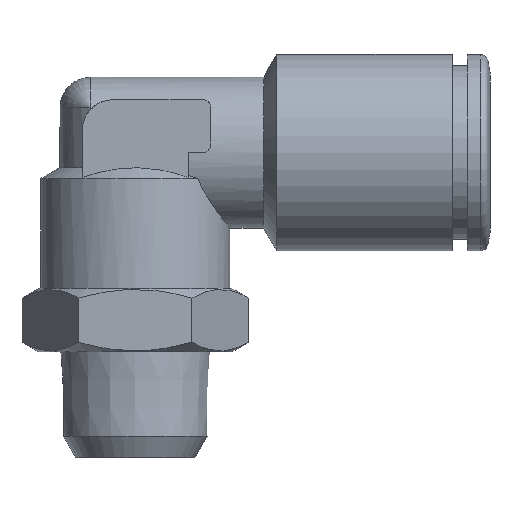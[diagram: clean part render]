
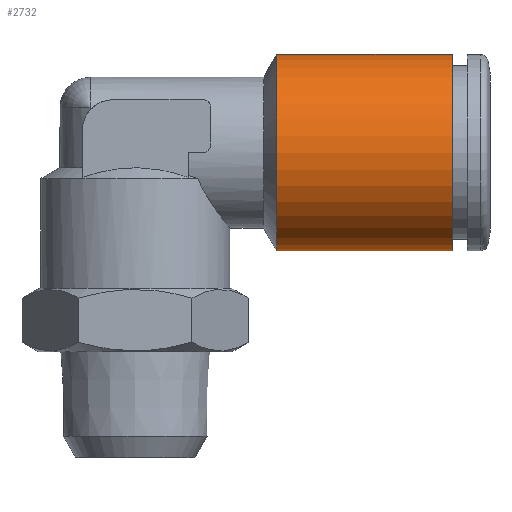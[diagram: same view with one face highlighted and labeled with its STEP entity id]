
A CAD part, front view. The second image highlights one B-rep face of the part: STEP entity #2732.
In plain terms, the highlighted cylindrical face has radius 6.5 mm (diameter 13 mm), a full revolution.
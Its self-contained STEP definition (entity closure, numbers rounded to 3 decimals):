
#1398=CYLINDRICAL_SURFACE('',#2587,6.5);
#1525=ORIENTED_EDGE('',*,*,#1883,.F.);
#1526=ORIENTED_EDGE('',*,*,#1882,.T.);
#1695=CIRCLE('',#2586,6.5);
#1696=CIRCLE('',#2588,6.5);
#1779=VERTEX_POINT('',#4039);
#1780=VERTEX_POINT('',#4042);
#1882=EDGE_CURVE('',#1779,#1779,#1695,.T.);
#1883=EDGE_CURVE('',#1780,#1780,#1696,.T.);
#1988=EDGE_LOOP('',(#1525));
#1989=EDGE_LOOP('',(#1526));
#2105=FACE_BOUND('',#1988,.T.);
#2106=FACE_BOUND('',#1989,.T.);
#2316=DIRECTION('',(1.,0.,0.));
#2317=DIRECTION('',(0.,6.5,0.));
#2318=DIRECTION('',(-1.,0.,0.));
#2319=DIRECTION('',(0.,1.,0.));
#2320=DIRECTION('',(1.,0.,0.));
#2321=DIRECTION('',(0.,6.5,0.));
#2586=AXIS2_PLACEMENT_3D('',#4040,#2316,#2317);
#2587=AXIS2_PLACEMENT_3D('',#4041,#2318,#2319);
#2588=AXIS2_PLACEMENT_3D('',#4043,#2320,#2321);
#2732=ADVANCED_FACE('',(#2105,#2106),#1398,.T.);
#4039=CARTESIAN_POINT('',(9.366,15.5,0.));
#4040=CARTESIAN_POINT('',(9.366,9.,0.));
#4041=CARTESIAN_POINT('',(21.,9.,0.));
#4042=CARTESIAN_POINT('',(21.,15.5,0.));
#4043=CARTESIAN_POINT('',(21.,9.,0.));
